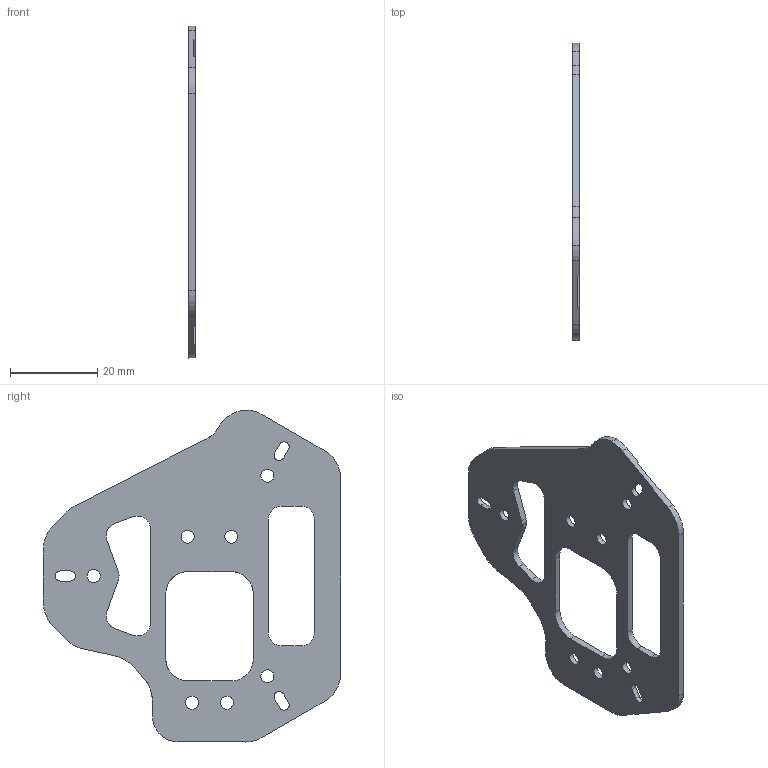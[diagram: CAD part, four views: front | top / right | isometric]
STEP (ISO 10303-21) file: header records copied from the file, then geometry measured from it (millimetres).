
FILE_DESCRIPTION (( 'STEP AP203' ), '1' );
FILE_NAME ('PEN-S.STEP', '2025-01-21T11:51:23', ( '' ), ( '' ), 'SwSTEP 2.0', 'SolidWorks 2024', '' );
FILE_SCHEMA (( 'CONFIG_CONTROL_DESIGN' ));
Length unit declared in the file: millimetre
Products named in the file (1): PEN-S
Bounding box: 1.5 x 68 x 76 mm (x, y, z)
Volume: 3893.5 mm3; surface area: 6190.4 mm2
Topology: 1 solids, 1 shells, 119 faces, 362 edges, 248 vertices
Faces by surface type: cylinder 70, plane 49
Entity records: 4641 total; most frequent: CARTESIAN_POINT 1526, ORIENTED_EDGE 724, DIRECTION 504, EDGE_CURVE 362, VERTEX_POINT 248, AXIS2_PLACEMENT_3D 204, B_SPLINE_CURVE_WITH_KNOTS 182, EDGE_LOOP 148
